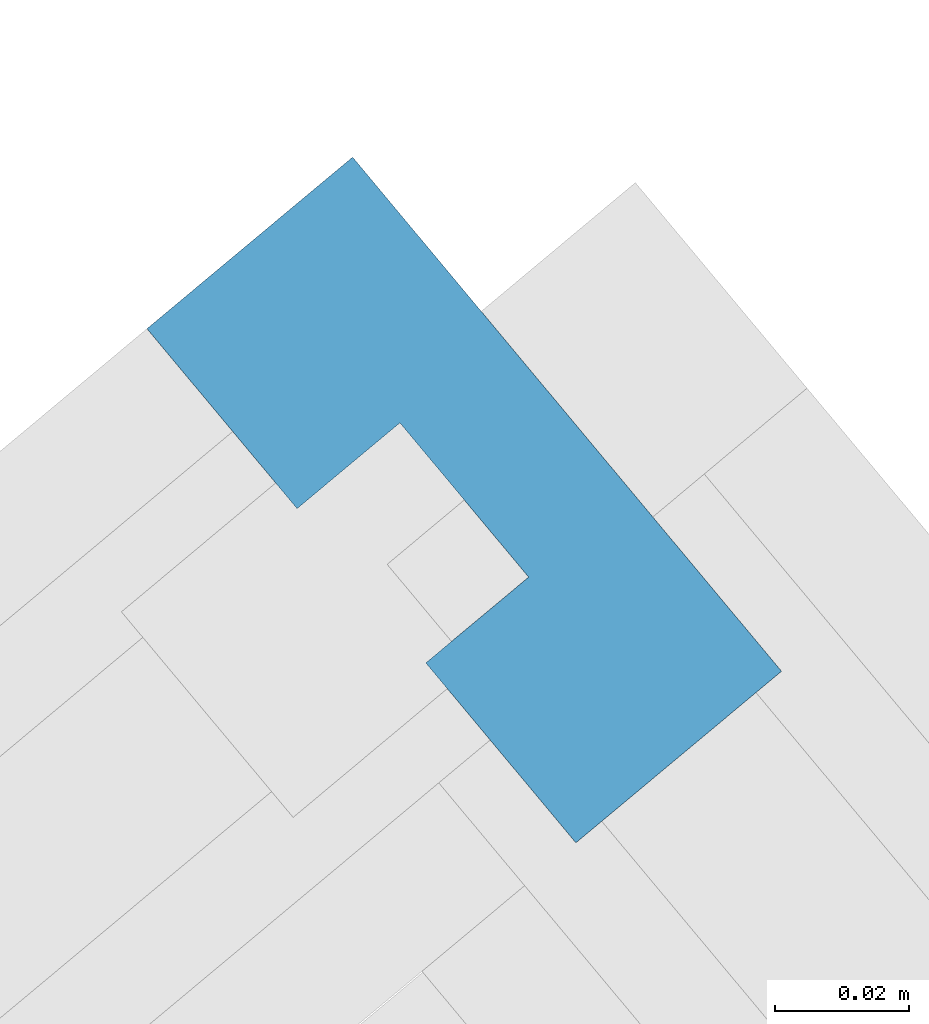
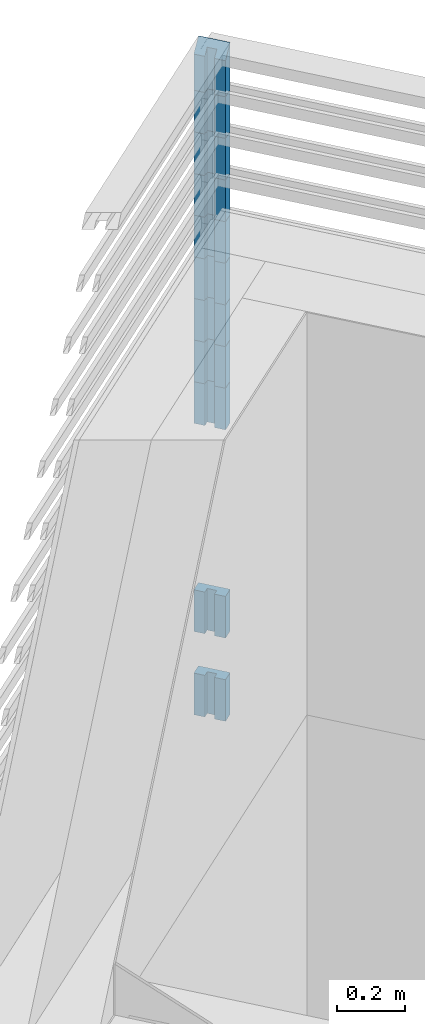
# One storey, part 44 of 47: 11 building element parts, 1 element without a shape of its own.
"""IFC4 building model written with IfcOpenShell, lengths in metres."""

from ifc_helpers import new_model, entity, si_unit, converted_unit, derived_unit, direction, frame, origin_with_axes, place, context, subcontext, project, spatial, polygons, material, type_object, element, aggregate, save


model = new_model("IFC4")

# Units and contexts
model_context = context("Model", 3, precision=1e-05, world=origin_with_axes(), true_north=direction((0.0, 1.0)))
body_context = subcontext(model_context, "Body", "Model", "MODEL_VIEW")
ifc_project = project(units=[si_unit("LENGTHUNIT", "METRE"), si_unit("AREAUNIT", "SQUARE_METRE"), si_unit("VOLUMEUNIT", "CUBIC_METRE"), converted_unit("PLANEANGLEUNIT", "DEGREE", entity("IfcPlaneAngleMeasure", 0.0174532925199), si_unit("PLANEANGLEUNIT", "RADIAN"), dimensions=[0, 0, 0, 0, 0, 0, 0]), converted_unit("TIMEUNIT", "Year", entity("IfcTimeMeasure", 31556926.0), si_unit("TIMEUNIT", "SECOND"), dimensions=[0, 0, 1, 0, 0, 0, 0]), si_unit("MASSUNIT", "GRAM", prefix="KILO"), si_unit("THERMODYNAMICTEMPERATUREUNIT", "DEGREE_CELSIUS"), si_unit("LUMINOUSINTENSITYUNIT", "LUMEN"), si_unit("ENERGYUNIT", "JOULE", prefix="MEGA"), derived_unit("THERMALCONDUCTANCEUNIT", [(si_unit("POWERUNIT", "WATT"), 1), (si_unit("LENGTHUNIT", "METRE"), -1), (si_unit("THERMODYNAMICTEMPERATUREUNIT", "KELVIN"), -1)]), derived_unit("SPECIFICHEATCAPACITYUNIT", [(si_unit("ENERGYUNIT", "JOULE"), 1), (si_unit("MASSUNIT", "GRAM", prefix="KILO"), -1), (si_unit("THERMODYNAMICTEMPERATUREUNIT", "KELVIN"), -1)]), derived_unit("MASSDENSITYUNIT", [(si_unit("MASSUNIT", "GRAM", prefix="KILO"), 1), (si_unit("VOLUMEUNIT", "CUBIC_METRE"), -1)])], contexts=[model_context])

# Site, building, storey
site_placement = place(None, frame((-0.00153261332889, -0.00661245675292, 0.0), z_axis=(0.0, 0.0, 1.0), x_axis=(1.0, 0.0, 0.0)))
site = spatial("IfcSite", under=ifc_project, at=site_placement, Name="Site", CompositionType="ELEMENT")
building_placement = place(site_placement, origin_with_axes())
building = spatial("IfcBuilding", under=site, at=building_placement, Name="Building", CompositionType="ELEMENT")
storey_placement = place(building_placement, frame((0.0, 0.0, 8.66), z_axis=(0.0, 0.0, 1.0), x_axis=(1.0, 0.0, 0.0)))
storey = spatial("IfcBuildingStorey", under=building, at=storey_placement, Name="DG2", CompositionType="ELEMENT", Elevation=8.66)

# Curtain wall, building element parts
curtain_wall_type = type_object("IfcCurtainWallType", Name="Fassadentyp", PredefinedType="NOTDEFINED")
curtain_wall_placement = place(storey_placement, frame((-2.95253507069, 23.8775371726, 0.32), z_axis=(0.0, 0.0, 1.0), x_axis=(1.0, 0.0, 0.0)))
curtain_wall = element("IfcCurtainWall", 1, at=curtain_wall_placement, inside=storey, type_object=curtain_wall_type, Name="Fassade-001", PredefinedType="NOTDEFINED")
ifc_material = material(Name="Blech")
building_element_part_1_placement = place(curtain_wall_placement, origin_with_axes())
building_element_part_1 = element("IfcBuildingElementPart", 2, at=building_element_part_1_placement, material=ifc_material, Name="Blech", PredefinedType="NOTDEFINED", context=body_context, shape_type="Tessellation", body=[
    polygons([(4.62335524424, 3.83828163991, 2.4), (4.60799902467, 3.8254681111, 2.4), (4.63042270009, 3.79859472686, 2.4), (4.66113513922, 3.82422178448, 2.4), (4.59706749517, 3.90100288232, 2.4), (4.56635505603, 3.8753758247, 2.4), (4.58877873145, 3.84850244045, 2.4), (4.60413495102, 3.86131596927, 2.4), (4.62335524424, 3.83828163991, 2.25), (4.60799902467, 3.8254681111, 2.25), (4.63042270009, 3.79859472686, 2.25), (4.66113513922, 3.82422178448, 2.25), (4.59706749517, 3.90100288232, 2.25), (4.56635505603, 3.8753758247, 2.25), (4.58877873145, 3.84850244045, 2.25), (4.60413495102, 3.86131596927, 2.25)], [[[1, 2, 3, 4, 5, 6, 7, 8]], [[1, 9, 10, 2]], [[10, 11, 3, 2]], [[11, 12, 4, 3]], [[12, 13, 5, 4]], [[13, 14, 6, 5]], [[7, 6, 14, 15]], [[15, 16, 8, 7]], [[8, 16, 9, 1]], [[9, 16, 15, 14, 13, 12, 11, 10]]], closed=True),
])
building_element_part_2_placement = place(curtain_wall_placement, origin_with_axes())
building_element_part_2 = element("IfcBuildingElementPart", 3, at=building_element_part_2_placement, material=ifc_material, Name="Blech", PredefinedType="NOTDEFINED", context=body_context, shape_type="Tessellation", body=[
    polygons([(4.62335524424, 3.83828163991, 2.1), (4.60799902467, 3.8254681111, 2.1), (4.63042270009, 3.79859472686, 2.1), (4.66113513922, 3.82422178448, 2.1), (4.59706749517, 3.90100288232, 2.1), (4.56635505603, 3.8753758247, 2.1), (4.58877873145, 3.84850244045, 2.1), (4.60413495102, 3.86131596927, 2.1), (4.62335524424, 3.83828163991, 1.95), (4.60799902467, 3.8254681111, 1.95), (4.63042270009, 3.79859472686, 1.95), (4.66113513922, 3.82422178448, 1.95), (4.59706749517, 3.90100288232, 1.95), (4.56635505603, 3.8753758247, 1.95), (4.58877873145, 3.84850244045, 1.95), (4.60413495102, 3.86131596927, 1.95)], [[[1, 2, 3, 4, 5, 6, 7, 8]], [[1, 9, 10, 2]], [[10, 11, 3, 2]], [[11, 12, 4, 3]], [[12, 13, 5, 4]], [[13, 14, 6, 5]], [[7, 6, 14, 15]], [[15, 16, 8, 7]], [[8, 16, 9, 1]], [[9, 16, 15, 14, 13, 12, 11, 10]]], closed=True),
])
building_element_part_3_placement = place(curtain_wall_placement, origin_with_axes())
building_element_part_3 = element("IfcBuildingElementPart", 4, at=building_element_part_3_placement, material=ifc_material, Name="Blech", PredefinedType="NOTDEFINED", context=body_context, shape_type="Tessellation", body=[
    polygons([(4.62335524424, 3.83828163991, 3.15), (4.60799902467, 3.8254681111, 3.15), (4.63042270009, 3.79859472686, 3.15), (4.66113513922, 3.82422178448, 3.15), (4.59706749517, 3.90100288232, 3.15), (4.56635505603, 3.8753758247, 3.15), (4.58877873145, 3.84850244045, 3.15), (4.60413495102, 3.86131596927, 3.15), (4.62335524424, 3.83828163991, 3.0), (4.60799902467, 3.8254681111, 3.0), (4.63042270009, 3.79859472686, 3.0), (4.66113513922, 3.82422178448, 3.0), (4.59706749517, 3.90100288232, 3.0), (4.56635505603, 3.8753758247, 3.0), (4.58877873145, 3.84850244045, 3.0), (4.60413495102, 3.86131596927, 3.0)], [[[1, 2, 3, 4, 5, 6, 7, 8]], [[1, 9, 10, 2]], [[10, 11, 3, 2]], [[11, 12, 4, 3]], [[12, 13, 5, 4]], [[13, 14, 6, 5]], [[7, 6, 14, 15]], [[15, 16, 8, 7]], [[8, 16, 9, 1]], [[9, 16, 15, 14, 13, 12, 11, 10]]], closed=True),
])
building_element_part_4_placement = place(curtain_wall_placement, origin_with_axes())
building_element_part_4 = element("IfcBuildingElementPart", 5, at=building_element_part_4_placement, material=ifc_material, Name="Blech", PredefinedType="NOTDEFINED", context=body_context, shape_type="Tessellation", body=[
    polygons([(4.62335524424, 3.83828163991, 3.3), (4.60799902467, 3.8254681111, 3.3), (4.63042270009, 3.79859472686, 3.3), (4.66113513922, 3.82422178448, 3.3), (4.59706749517, 3.90100288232, 3.3), (4.56635505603, 3.8753758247, 3.3), (4.58877873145, 3.84850244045, 3.3), (4.60413495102, 3.86131596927, 3.3), (4.62335524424, 3.83828163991, 3.15), (4.60799902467, 3.8254681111, 3.15), (4.63042270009, 3.79859472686, 3.15), (4.66113513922, 3.82422178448, 3.15), (4.59706749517, 3.90100288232, 3.15), (4.56635505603, 3.8753758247, 3.15), (4.58877873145, 3.84850244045, 3.15), (4.60413495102, 3.86131596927, 3.15)], [[[1, 2, 3, 4, 5, 6, 7, 8]], [[1, 9, 10, 2]], [[10, 11, 3, 2]], [[11, 12, 4, 3]], [[12, 13, 5, 4]], [[13, 14, 6, 5]], [[7, 6, 14, 15]], [[15, 16, 8, 7]], [[8, 16, 9, 1]], [[9, 16, 15, 14, 13, 12, 11, 10]]], closed=True),
])
building_element_part_5_placement = place(curtain_wall_placement, origin_with_axes())
building_element_part_5 = element("IfcBuildingElementPart", 6, at=building_element_part_5_placement, material=ifc_material, Name="Blech", PredefinedType="NOTDEFINED", context=body_context, shape_type="Tessellation", body=[
    polygons([(4.62335524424, 3.83828163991, 3.45), (4.60799902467, 3.8254681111, 3.45), (4.63042270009, 3.79859472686, 3.45), (4.66113513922, 3.82422178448, 3.45), (4.59706749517, 3.90100288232, 3.45), (4.56635505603, 3.8753758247, 3.45), (4.58877873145, 3.84850244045, 3.45), (4.60413495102, 3.86131596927, 3.45), (4.62335524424, 3.83828163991, 3.3), (4.60799902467, 3.8254681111, 3.3), (4.63042270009, 3.79859472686, 3.3), (4.66113513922, 3.82422178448, 3.3), (4.59706749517, 3.90100288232, 3.3), (4.56635505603, 3.8753758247, 3.3), (4.58877873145, 3.84850244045, 3.3), (4.60413495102, 3.86131596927, 3.3)], [[[1, 2, 3, 4, 5, 6, 7, 8]], [[1, 9, 10, 2]], [[10, 11, 3, 2]], [[11, 12, 4, 3]], [[12, 13, 5, 4]], [[13, 14, 6, 5]], [[7, 6, 14, 15]], [[15, 16, 8, 7]], [[8, 16, 9, 1]], [[9, 16, 15, 14, 13, 12, 11, 10]]], closed=True),
])
building_element_part_6_placement = place(curtain_wall_placement, origin_with_axes())
building_element_part_6 = element("IfcBuildingElementPart", 7, at=building_element_part_6_placement, material=ifc_material, Name="Blech", PredefinedType="NOTDEFINED", context=body_context, shape_type="Tessellation", body=[
    polygons([(4.62335524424, 3.83828163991, 3.6), (4.60799902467, 3.8254681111, 3.6), (4.63042270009, 3.79859472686, 3.6), (4.66113513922, 3.82422178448, 3.6), (4.59706749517, 3.90100288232, 3.6), (4.56635505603, 3.8753758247, 3.6), (4.58877873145, 3.84850244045, 3.6), (4.60413495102, 3.86131596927, 3.6), (4.62335524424, 3.83828163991, 3.45), (4.60799902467, 3.8254681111, 3.45), (4.63042270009, 3.79859472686, 3.45), (4.66113513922, 3.82422178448, 3.45), (4.59706749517, 3.90100288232, 3.45), (4.56635505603, 3.8753758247, 3.45), (4.58877873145, 3.84850244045, 3.45), (4.60413495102, 3.86131596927, 3.45)], [[[1, 2, 3, 4, 5, 6, 7, 8]], [[1, 9, 10, 2]], [[10, 11, 3, 2]], [[11, 12, 4, 3]], [[12, 13, 5, 4]], [[13, 14, 6, 5]], [[7, 6, 14, 15]], [[15, 16, 8, 7]], [[8, 16, 9, 1]], [[9, 16, 15, 14, 13, 12, 11, 10]]], closed=True),
])
building_element_part_7_placement = place(curtain_wall_placement, origin_with_axes())
building_element_part_7 = element("IfcBuildingElementPart", 8, at=building_element_part_7_placement, material=ifc_material, Name="Blech", PredefinedType="NOTDEFINED", context=body_context, shape_type="Tessellation", body=[
    polygons([(4.62335524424, 3.83828163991, 3.75), (4.60799902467, 3.8254681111, 3.75), (4.63042270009, 3.79859472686, 3.75), (4.66113513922, 3.82422178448, 3.75), (4.59706749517, 3.90100288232, 3.75), (4.56635505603, 3.8753758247, 3.75), (4.58877873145, 3.84850244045, 3.75), (4.60413495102, 3.86131596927, 3.75), (4.62335524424, 3.83828163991, 3.6), (4.60799902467, 3.8254681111, 3.6), (4.63042270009, 3.79859472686, 3.6), (4.66113513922, 3.82422178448, 3.6), (4.59706749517, 3.90100288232, 3.6), (4.56635505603, 3.8753758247, 3.6), (4.58877873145, 3.84850244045, 3.6), (4.60413495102, 3.86131596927, 3.6)], [[[1, 2, 3, 4, 5, 6, 7, 8]], [[1, 9, 10, 2]], [[10, 11, 3, 2]], [[11, 12, 4, 3]], [[12, 13, 5, 4]], [[13, 14, 6, 5]], [[7, 6, 14, 15]], [[15, 16, 8, 7]], [[8, 16, 9, 1]], [[9, 16, 15, 14, 13, 12, 11, 10]]], closed=True),
])
building_element_part_8_placement = place(curtain_wall_placement, origin_with_axes())
building_element_part_8 = element("IfcBuildingElementPart", 9, at=building_element_part_8_placement, material=ifc_material, Name="Blech", PredefinedType="NOTDEFINED", context=body_context, shape_type="Tessellation", body=[
    polygons([(4.62335524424, 3.83828163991, 3.9), (4.60799902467, 3.8254681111, 3.9), (4.63042270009, 3.79859472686, 3.9), (4.66113513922, 3.82422178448, 3.9), (4.59706749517, 3.90100288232, 3.9), (4.56635505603, 3.8753758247, 3.9), (4.58877873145, 3.84850244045, 3.9), (4.60413495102, 3.86131596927, 3.9), (4.62335524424, 3.83828163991, 3.75), (4.60799902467, 3.8254681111, 3.75), (4.63042270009, 3.79859472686, 3.75), (4.66113513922, 3.82422178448, 3.75), (4.59706749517, 3.90100288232, 3.75), (4.56635505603, 3.8753758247, 3.75), (4.58877873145, 3.84850244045, 3.75), (4.60413495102, 3.86131596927, 3.75)], [[[1, 2, 3, 4, 5, 6, 7, 8]], [[1, 9, 10, 2]], [[10, 11, 3, 2]], [[11, 12, 4, 3]], [[12, 13, 5, 4]], [[13, 14, 6, 5]], [[7, 6, 14, 15]], [[15, 16, 8, 7]], [[8, 16, 9, 1]], [[9, 16, 15, 14, 13, 12, 11, 10]]], closed=True),
])
building_element_part_9_placement = place(curtain_wall_placement, origin_with_axes())
building_element_part_9 = element("IfcBuildingElementPart", 10, at=building_element_part_9_placement, material=ifc_material, Name="Blech", PredefinedType="NOTDEFINED", context=body_context, shape_type="Tessellation", body=[
    polygons([(4.62335524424, 3.83828163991, 4.05), (4.60799902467, 3.8254681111, 4.05), (4.63042270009, 3.79859472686, 4.05), (4.66113513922, 3.82422178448, 4.05), (4.59706749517, 3.90100288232, 4.05), (4.56635505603, 3.8753758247, 4.05), (4.58877873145, 3.84850244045, 4.05), (4.60413495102, 3.86131596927, 4.05), (4.62335524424, 3.83828163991, 3.9), (4.60799902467, 3.8254681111, 3.9), (4.63042270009, 3.79859472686, 3.9), (4.66113513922, 3.82422178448, 3.9), (4.59706749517, 3.90100288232, 3.9), (4.56635505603, 3.8753758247, 3.9), (4.58877873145, 3.84850244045, 3.9), (4.60413495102, 3.86131596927, 3.9)], [[[1, 2, 3, 4, 5, 6, 7, 8]], [[1, 9, 10, 2]], [[10, 11, 3, 2]], [[11, 12, 4, 3]], [[12, 13, 5, 4]], [[13, 14, 6, 5]], [[7, 6, 14, 15]], [[15, 16, 8, 7]], [[8, 16, 9, 1]], [[9, 16, 15, 14, 13, 12, 11, 10]]], closed=True),
])
building_element_part_10_placement = place(curtain_wall_placement, origin_with_axes())
building_element_part_10 = element("IfcBuildingElementPart", 11, at=building_element_part_10_placement, material=ifc_material, Name="Blech", PredefinedType="NOTDEFINED", context=body_context, shape_type="Tessellation", body=[
    polygons([(4.62335524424, 3.83828163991, 4.2), (4.60799902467, 3.8254681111, 4.2), (4.63042270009, 3.79859472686, 4.2), (4.66113513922, 3.82422178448, 4.2), (4.59706749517, 3.90100288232, 4.2), (4.56635505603, 3.8753758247, 4.2), (4.58877873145, 3.84850244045, 4.2), (4.60413495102, 3.86131596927, 4.2), (4.62335524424, 3.83828163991, 4.05), (4.60799902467, 3.8254681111, 4.05), (4.63042270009, 3.79859472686, 4.05), (4.66113513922, 3.82422178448, 4.05), (4.59706749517, 3.90100288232, 4.05), (4.56635505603, 3.8753758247, 4.05), (4.58877873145, 3.84850244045, 4.05), (4.60413495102, 3.86131596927, 4.05)], [[[1, 2, 3, 4, 5, 6, 7, 8]], [[1, 9, 10, 2]], [[10, 11, 3, 2]], [[11, 12, 4, 3]], [[12, 13, 5, 4]], [[13, 14, 6, 5]], [[7, 6, 14, 15]], [[15, 16, 8, 7]], [[8, 16, 9, 1]], [[9, 16, 15, 14, 13, 12, 11, 10]]], closed=True),
])
building_element_part_11_placement = place(curtain_wall_placement, origin_with_axes())
building_element_part_11 = element("IfcBuildingElementPart", 12, at=building_element_part_11_placement, material=ifc_material, Name="Blech", PredefinedType="NOTDEFINED", context=body_context, shape_type="Tessellation", body=[
    polygons([(4.62335524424, 3.83828163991, 4.35), (4.60799902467, 3.8254681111, 4.33), (4.63042270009, 3.79859472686, 4.33), (4.66113513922, 3.82422178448, 4.37), (4.59706749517, 3.90100288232, 4.37), (4.56635505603, 3.8753758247, 4.33), (4.58877873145, 3.84850244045, 4.33), (4.60413495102, 3.86131596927, 4.35), (4.62335524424, 3.83828163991, 4.2), (4.60799902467, 3.8254681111, 4.2), (4.63042270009, 3.79859472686, 4.2), (4.66113513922, 3.82422178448, 4.2), (4.59706749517, 3.90100288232, 4.2), (4.56635505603, 3.8753758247, 4.2), (4.58877873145, 3.84850244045, 4.2), (4.60413495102, 3.86131596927, 4.2)], [[[1, 2, 3, 4, 5, 6, 7, 8]], [[1, 9, 10, 2]], [[10, 11, 3, 2]], [[11, 12, 4, 3]], [[12, 13, 5, 4]], [[13, 14, 6, 5]], [[7, 6, 14, 15]], [[15, 16, 8, 7]], [[8, 16, 9, 1]], [[9, 16, 15, 14, 13, 12, 11, 10]]], closed=True),
])
aggregate(curtain_wall, [building_element_part_1, building_element_part_2, building_element_part_3, building_element_part_4, building_element_part_5, building_element_part_6, building_element_part_7, building_element_part_8, building_element_part_9, building_element_part_10, building_element_part_11])

save(model, "model.ifc")
